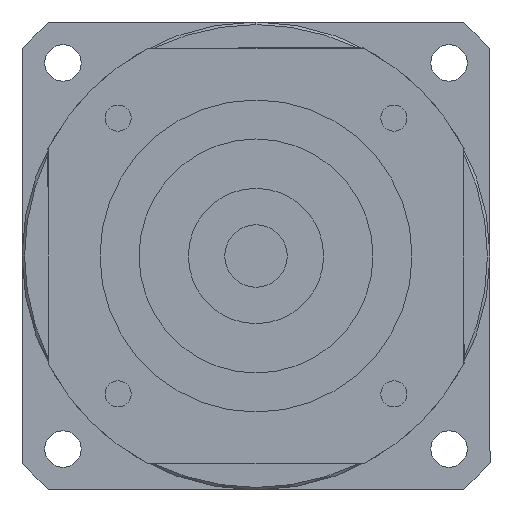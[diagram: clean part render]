
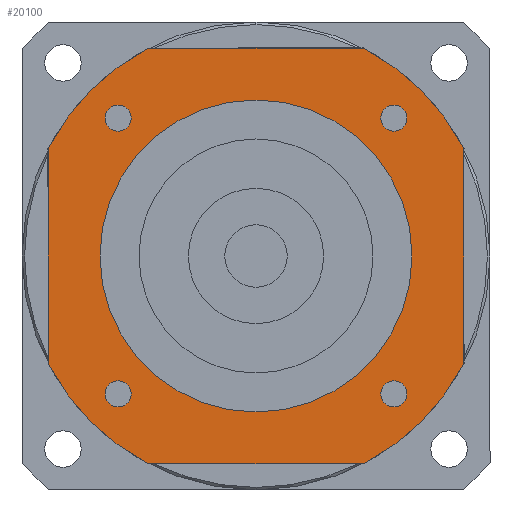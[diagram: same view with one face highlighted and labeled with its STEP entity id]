
A CAD part, left-side view. The second image highlights one B-rep face of the part: STEP entity #20100.
In plain terms, the highlighted planar face has unit normal (-1, 0, 0) as drawn and (0, 0, -1) by its records, which use the part's own axes.
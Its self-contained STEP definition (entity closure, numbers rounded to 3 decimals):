
#16130=CARTESIAN_POINT('',(-20.616,40.,-117.));
#16140=VERTEX_POINT('',#16130);
#16300=CARTESIAN_POINT('',(-40.,20.616,-117.));
#16310=VERTEX_POINT('',#16300);
#16340=CARTESIAN_POINT('',(0.,0.,
-117.));
#16350=DIRECTION('',(0.,0.,1.));
#16360=DIRECTION('',(0.,-1.,0.));
#16370=AXIS2_PLACEMENT_3D('',#16340,#16350,#16360);
#16380=CIRCLE('',#16370,45.);
#16390=EDGE_CURVE('',#16140,#16310,#16380,.T.);
#18340=CARTESIAN_POINT('',(20.616,40.,-117.));
#18350=VERTEX_POINT('',#18340);
#18480=CARTESIAN_POINT('',(40.,40.,-117.));
#18490=DIRECTION('',(-1.,0.,0.));
#18500=VECTOR('',#18490,1000.);
#18510=LINE('',#18480,#18500);
#18520=EDGE_CURVE('',#18350,#16140,#18510,.T.);
#18570=CARTESIAN_POINT('',(-40.,40.,-117.));
#18580=DIRECTION('',(0.,0.,1.));
#18590=DIRECTION('',(-1.,0.,0.));
#18600=AXIS2_PLACEMENT_3D('',#18570,#18580,#18590);
#18610=PLANE('',#18600);
#18620=CARTESIAN_POINT('',(26.517,-26.517,-117.));
#18630=DIRECTION('',(0.,0.,-1.));
#18640=DIRECTION('',(1.,0.,0.));
#18650=AXIS2_PLACEMENT_3D('',#18620,#18630,#18640);
#18660=CIRCLE('',#18650,2.5);
#18670=CARTESIAN_POINT('',(29.017,-26.517,-117.));
#18680=VERTEX_POINT('',#18670);
#18690=CARTESIAN_POINT('',(26.517,-29.017,-117.));
#18700=VERTEX_POINT('',#18690);
#18710=EDGE_CURVE('',#18680,#18700,#18660,.T.);
#18720=ORIENTED_EDGE('',*,*,#18710,.F.);
#18730=CARTESIAN_POINT('',(26.517,-24.017,-117.));
#18740=VERTEX_POINT('',#18730);
#18750=EDGE_CURVE('',#18700,#18740,#18660,.T.);
#18760=ORIENTED_EDGE('',*,*,#18750,.F.);
#18770=EDGE_CURVE('',#18740,#18680,#18660,.T.);
#18780=ORIENTED_EDGE('',*,*,#18770,.F.);
#18790=EDGE_LOOP('',(#18780,#18760,#18720));
#18800=FACE_BOUND('',#18790,.T.);
#18810=CARTESIAN_POINT('',(26.517,26.517,-117.));
#18820=DIRECTION('',(0.,0.,-1.));
#18830=DIRECTION('',(0.,1.,0.));
#18840=AXIS2_PLACEMENT_3D('',#18810,#18820,#18830);
#18850=CIRCLE('',#18840,2.5);
#18860=CARTESIAN_POINT('',(26.517,29.017,-117.));
#18870=VERTEX_POINT('',#18860);
#18880=CARTESIAN_POINT('',(29.017,26.517,-117.));
#18890=VERTEX_POINT('',#18880);
#18900=EDGE_CURVE('',#18870,#18890,#18850,.T.);
#18910=ORIENTED_EDGE('',*,*,#18900,.F.);
#18920=CARTESIAN_POINT('',(24.017,26.517,-117.));
#18930=VERTEX_POINT('',#18920);
#18940=EDGE_CURVE('',#18890,#18930,#18850,.T.);
#18950=ORIENTED_EDGE('',*,*,#18940,.F.);
#18960=EDGE_CURVE('',#18930,#18870,#18850,.T.);
#18970=ORIENTED_EDGE('',*,*,#18960,.F.);
#18980=EDGE_LOOP('',(#18970,#18950,#18910));
#18990=FACE_BOUND('',#18980,.T.);
#19000=CARTESIAN_POINT('',(-26.517,26.517,-117.));
#19010=DIRECTION('',(0.,0.,-1.));
#19020=DIRECTION('',(-1.,0.,0.));
#19030=AXIS2_PLACEMENT_3D('',#19000,#19010,#19020);
#19040=CIRCLE('',#19030,2.5);
#19050=CARTESIAN_POINT('',(-29.017,26.517,-117.));
#19060=VERTEX_POINT('',#19050);
#19070=CARTESIAN_POINT('',(-26.517,29.017,-117.));
#19080=VERTEX_POINT('',#19070);
#19090=EDGE_CURVE('',#19060,#19080,#19040,.T.);
#19100=ORIENTED_EDGE('',*,*,#19090,.F.);
#19110=CARTESIAN_POINT('',(-26.517,24.017,-117.));
#19120=VERTEX_POINT('',#19110);
#19130=EDGE_CURVE('',#19080,#19120,#19040,.T.);
#19140=ORIENTED_EDGE('',*,*,#19130,.F.);
#19150=EDGE_CURVE('',#19120,#19060,#19040,.T.);
#19160=ORIENTED_EDGE('',*,*,#19150,.F.);
#19170=EDGE_LOOP('',(#19160,#19140,#19100));
#19180=FACE_BOUND('',#19170,.T.);
#19190=CARTESIAN_POINT('',(-26.517,-26.517,-117.));
#19200=DIRECTION('',(0.,0.,-1.));
#19210=DIRECTION('',(0.,-1.,0.));
#19220=AXIS2_PLACEMENT_3D('',#19190,#19200,#19210);
#19230=CIRCLE('',#19220,2.5);
#19240=CARTESIAN_POINT('',(-26.517,-29.017,-117.));
#19250=VERTEX_POINT('',#19240);
#19260=CARTESIAN_POINT('',(-29.017,-26.517,-117.));
#19270=VERTEX_POINT('',#19260);
#19280=EDGE_CURVE('',#19250,#19270,#19230,.T.);
#19290=ORIENTED_EDGE('',*,*,#19280,.F.);
#19300=CARTESIAN_POINT('',(-24.017,-26.517,-117.));
#19310=VERTEX_POINT('',#19300);
#19320=EDGE_CURVE('',#19270,#19310,#19230,.T.);
#19330=ORIENTED_EDGE('',*,*,#19320,.F.);
#19340=EDGE_CURVE('',#19310,#19250,#19230,.T.);
#19350=ORIENTED_EDGE('',*,*,#19340,.F.);
#19360=EDGE_LOOP('',(#19350,#19330,#19290));
#19370=FACE_BOUND('',#19360,.T.);
#19380=CARTESIAN_POINT('',(0.,0.,
-117.));
#19390=DIRECTION('',(0.,0.,1.));
#19400=DIRECTION('',(0.,-1.,0.));
#19410=AXIS2_PLACEMENT_3D('',#19380,#19390,#19400);
#19420=CIRCLE('',#19410,45.);
#19430=CARTESIAN_POINT('',(-40.,-20.616,-117.));
#19440=VERTEX_POINT('',#19430);
#19450=CARTESIAN_POINT('',(-20.616,-40.,-117.));
#19460=VERTEX_POINT('',#19450);
#19470=EDGE_CURVE('',#19440,#19460,#19420,.T.);
#19480=ORIENTED_EDGE('',*,*,#19470,.F.);
#19490=CARTESIAN_POINT('',(-40.,-40.,-117.));
#19500=DIRECTION('',(1.,0.,0.));
#19510=VECTOR('',#19500,1000.);
#19520=LINE('',#19490,#19510);
#19530=CARTESIAN_POINT('',(20.616,-40.,-117.));
#19540=VERTEX_POINT('',#19530);
#19550=EDGE_CURVE('',#19460,#19540,#19520,.T.);
#19560=ORIENTED_EDGE('',*,*,#19550,.F.);
#19570=CARTESIAN_POINT('',(0.,0.,
-117.));
#19580=DIRECTION('',(0.,0.,1.));
#19590=DIRECTION('',(0.,-1.,0.));
#19600=AXIS2_PLACEMENT_3D('',#19570,#19580,#19590);
#19610=CIRCLE('',#19600,45.);
#19620=CARTESIAN_POINT('',(40.,-20.616,-117.));
#19630=VERTEX_POINT('',#19620);
#19640=EDGE_CURVE('',#19540,#19630,#19610,.T.);
#19650=ORIENTED_EDGE('',*,*,#19640,.F.);
#19660=CARTESIAN_POINT('',(40.,-40.,-117.));
#19670=DIRECTION('',(0.,1.,0.));
#19680=VECTOR('',#19670,1000.);
#19690=LINE('',#19660,#19680);
#19700=CARTESIAN_POINT('',(40.,20.616,-117.));
#19710=VERTEX_POINT('',#19700);
#19720=EDGE_CURVE('',#19630,#19710,#19690,.T.);
#19730=ORIENTED_EDGE('',*,*,#19720,.F.);
#19740=CARTESIAN_POINT('',(0.,0.,
-117.));
#19750=DIRECTION('',(0.,0.,1.));
#19760=DIRECTION('',(0.,-1.,0.));
#19770=AXIS2_PLACEMENT_3D('',#19740,#19750,#19760);
#19780=CIRCLE('',#19770,45.);
#19790=EDGE_CURVE('',#19710,#18350,#19780,.T.);
#19800=ORIENTED_EDGE('',*,*,#19790,.F.);
#19810=ORIENTED_EDGE('',*,*,#18520,.F.);
#19820=ORIENTED_EDGE('',*,*,#16390,.F.);
#19830=CARTESIAN_POINT('',(-40.,40.,-117.));
#19840=DIRECTION('',(0.,-1.,0.));
#19850=VECTOR('',#19840,1000.);
#19860=LINE('',#19830,#19850);
#19870=EDGE_CURVE('',#16310,#19440,#19860,.T.);
#19880=ORIENTED_EDGE('',*,*,#19870,.F.);
#19890=EDGE_LOOP('',(#19880,#19820,#19810,#19800,#19730,#19650,#19560,
#19480));
#19900=FACE_OUTER_BOUND('',#19890,.T.);
#19910=CARTESIAN_POINT('',(0.,0.,
-117.));
#19920=DIRECTION('',(0.,0.,1.));
#19930=DIRECTION('',(0.,-1.,0.));
#19940=AXIS2_PLACEMENT_3D('',#19910,#19920,#19930);
#19950=CIRCLE('',#19940,30.);
#19960=CARTESIAN_POINT('',(30.,0.,-117.));
#19970=VERTEX_POINT('',#19960);
#19980=CARTESIAN_POINT('',(-30.,0.,-117.));
#19990=VERTEX_POINT('',#19980);
#20000=EDGE_CURVE('',#19970,#19990,#19950,.T.);
#20010=ORIENTED_EDGE('',*,*,#20000,.T.);
#20020=CARTESIAN_POINT('',(0.,-30.,-117.));
#20030=VERTEX_POINT('',#20020);
#20040=EDGE_CURVE('',#20030,#19970,#19950,.T.);
#20050=ORIENTED_EDGE('',*,*,#20040,.T.);
#20060=EDGE_CURVE('',#19990,#20030,#19950,.T.);
#20070=ORIENTED_EDGE('',*,*,#20060,.T.);
#20080=EDGE_LOOP('',(#20070,#20050,#20010));
#20090=FACE_BOUND('',#20080,.T.);
#20100=ADVANCED_FACE('',(#18800,#18990,#19180,#19370,#19900,#20090),
#18610,.F.);
